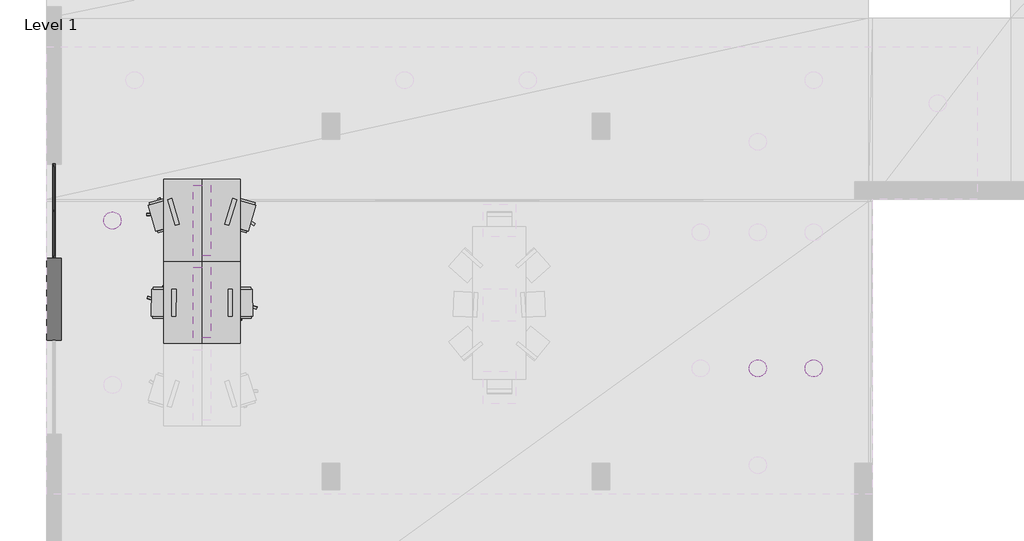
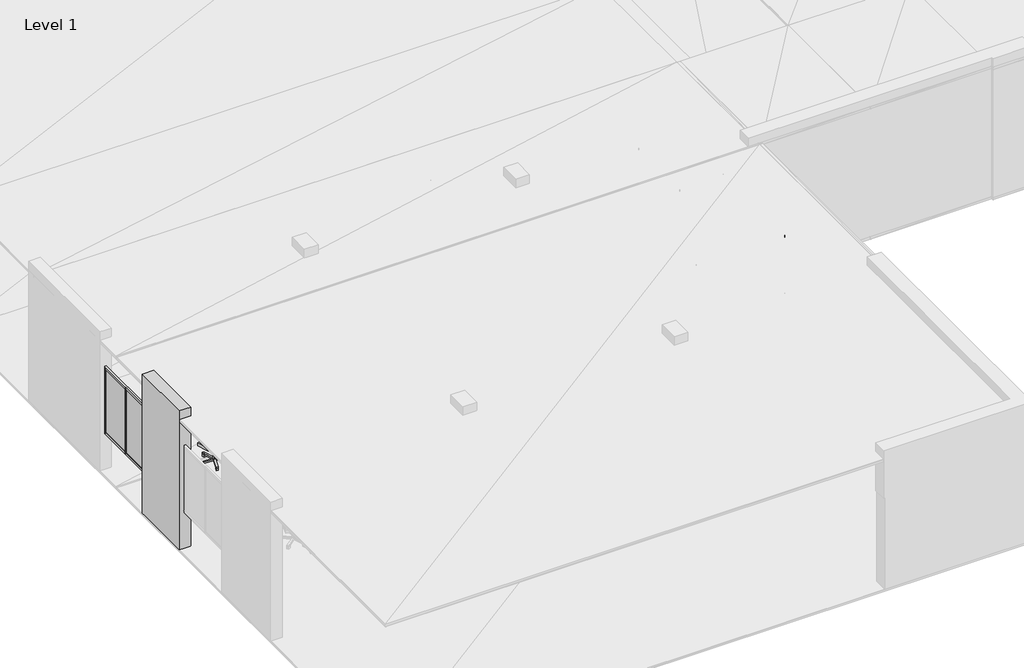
# One storey, part 5 of 14: 19 proxies.
"""IFC4 building model written with IfcOpenShell, lengths in millimetres."""

import ifcopenshell
import ifcopenshell.guid

model = None  # the IFC model being written
_history = None  # IfcOwnerHistory: only IFC2X3 demands one
_inside = {}  # id of a spatial element -> (the spatial element, [elements in it])
_under = {}  # id of a project, library or spatial element -> (it, [spatial elements below it])
_declared = {}  # id of a project -> (the project, [libraries it declares])
_typed = {}  # id of a type object -> (the type object, [elements of that type])
_made_of = {}  # id of a material, layer set ... -> (it, [elements and type objects made of it])


def new_model(schema):
    """Start an empty IFC model of exactly this schema.

    Asked for "IFC4X3", IfcOpenShell would pick the latest addendum, in which some entities
    have other attributes; the version numbers below select the first issue.
    IFC2X3 requires an IfcOwnerHistory on every rooted entity: one is made here for all.
    """
    global model, _history
    if schema == "IFC4X3":
        model = ifcopenshell.file(schema_version=(4, 3, 0, 0))
    else:
        model = ifcopenshell.file(schema=schema)
    _inside.clear()
    _under.clear()
    _declared.clear()
    _typed.clear()
    _made_of.clear()
    _history = None
    if model.schema == "IFC2X3":
        org = make("IfcOrganization", Name="unknown")
        user = make(
            "IfcPersonAndOrganization",
            ThePerson=make("IfcPerson", FamilyName="unknown"),
            TheOrganization=org,
        )
        app = make(
            "IfcApplication",
            ApplicationDeveloper=org,
            Version="unknown",
            ApplicationFullName="unknown",
            ApplicationIdentifier="unknown",
        )
        _history = make(
            "IfcOwnerHistory",
            OwningUser=user,
            OwningApplication=app,
            ChangeAction="ADDED",
            CreationDate=0,
        )
    return model


def make(cls, **values):
    """One entity of the class cls with the attributes given. An attribute that is None is left unset."""
    return model.create_entity(
        cls, **{name: value for name, value in values.items() if value is not None}
    )


def rooted(cls, **values):
    """An entity with a GlobalId (a new one), such as an element, a storey or a relation."""
    return make(cls, GlobalId=ifcopenshell.guid.new(), OwnerHistory=_history, **values)


def si_unit(unit_type, name, prefix=None):
    """IfcSIUnit, for example si_unit("LENGTHUNIT", "METRE", prefix="MILLI")."""
    return make("IfcSIUnit", UnitType=unit_type, Prefix=prefix, Name=name)


def assignment(units):
    """IfcUnitAssignment: the units of a project."""
    return None if units is None else make("IfcUnitAssignment", Units=units)


def point(xyz):
    """IfcCartesianPoint."""
    return None if xyz is None else make("IfcCartesianPoint", Coordinates=xyz)


def direction(xyz):
    """IfcDirection."""
    return None if xyz is None else make("IfcDirection", DirectionRatios=xyz)


def frame(location, z_axis=None, x_axis=None):
    """IfcAxis2Placement3D, a coordinate frame: its origin and axes. An axis left out is left unset."""
    return make(
        "IfcAxis2Placement3D",
        Location=point(location),
        Axis=direction(z_axis),
        RefDirection=direction(x_axis),
    )


def origin():
    """The frame at (0, 0, 0) with its axes left unset."""
    return frame((0.0, 0.0, 0.0))


def origin_with_axes():
    """The frame at (0, 0, 0) with the z axis (0, 0, 1) and the x axis (1, 0, 0) written out."""
    return frame((0.0, 0.0, 0.0), z_axis=(0.0, 0.0, 1.0), x_axis=(1.0, 0.0, 0.0))


def place(relative_to, where):
    """IfcLocalPlacement: puts the frame where relative to a parent placement (None: the world)."""
    return make(
        "IfcLocalPlacement", PlacementRelTo=relative_to, RelativePlacement=where
    )


def context(
    kind, dimensions, precision=None, world=None, true_north=None, identifier=None
):
    """IfcGeometricRepresentationContext, for example the 3D "Model" context."""
    return make(
        "IfcGeometricRepresentationContext",
        ContextIdentifier=identifier,
        ContextType=kind,
        CoordinateSpaceDimension=dimensions,
        Precision=precision,
        WorldCoordinateSystem=world,
        TrueNorth=true_north,
    )


def project(units=None, contexts=None):
    """IfcProject with its units and contexts."""
    return rooted(
        "IfcProject",
        Name="project",
        RepresentationContexts=contexts,
        UnitsInContext=assignment(units),
    )


def spatial(cls, under=None, at=None, **own):
    """A site, building, storey or space (cls), placed at a placement, below another one or the project."""
    s = rooted(cls, ObjectPlacement=at, **own)
    if under is not None:
        _under.setdefault(under.id(), (under, []))[1].append(s)
    return s


def polyline(points):
    """IfcPolyline through the points."""
    return make("IfcPolyline", Points=[point(p) for p in points])


def outline(outer, holes=None, kind="AREA"):
    """IfcArbitraryClosedProfileDef: a profile drawn as a closed curve; with holes, ...WithVoids."""
    if holes is None:
        return make("IfcArbitraryClosedProfileDef", ProfileType=kind, OuterCurve=outer)
    return make(
        "IfcArbitraryProfileDefWithVoids",
        ProfileType=kind,
        OuterCurve=outer,
        InnerCurves=holes,
    )


def extrude(swept, where, along, depth):
    """IfcExtrudedAreaSolid: the profile swept, set in the frame where, extruded along a direction by depth."""
    return make(
        "IfcExtrudedAreaSolid",
        SweptArea=swept,
        Position=where,
        ExtrudedDirection=direction(along),
        Depth=depth,
    )


def shape(context_of_items, identifier, shape_type, items):
    """IfcShapeRepresentation: the items that make up one representation, for example the "Body"."""
    return make(
        "IfcShapeRepresentation",
        ContextOfItems=context_of_items,
        RepresentationIdentifier=identifier,
        RepresentationType=shape_type,
        Items=items,
    )


def made_of(thing, what):
    """Note that an element or type object is made of a material, layer set ...; save() writes the relation."""
    if what is not None:
        _made_of.setdefault(what.id(), (what, []))[1].append(thing)
    return thing


def element(
    cls,
    number,
    at=None,
    inside=None,
    cuts=None,
    type_object=None,
    material=None,
    context=None,
    identifier="Body",
    shape_type=None,
    held_by="IfcProductDefinitionShape",
    body=None,
    shapes=None,
    **own,
):
    """One element of the class cls, such as IfcWall. Its Tag is "e" and its number.

    at: its placement. inside: the storey or other place that contains it. cuts: it is an
    opening in that element (IfcRelVoidsElement). A single representation is given by context,
    identifier, shape_type and body (its items); several are given by shapes. held_by: the class
    of the entity that holds the representations. save() writes the other relations.
    """
    e = rooted(cls, Tag="e%d" % number, ObjectPlacement=at, **own)
    if body is not None:
        shapes = [shape(context, identifier, shape_type, body)]
    if shapes is not None:
        e.Representation = make(held_by, Representations=shapes)
    if inside is not None:
        _inside.setdefault(inside.id(), (inside, []))[1].append(e)
    if cuts is not None:
        rooted(
            "IfcRelVoidsElement", RelatingBuildingElement=cuts, RelatedOpeningElement=e
        )
    if type_object is not None:
        _typed.setdefault(type_object.id(), (type_object, []))[1].append(e)
    return made_of(e, material)


def aggregate(whole, parts):
    """IfcRelAggregates: a whole, such as a stair, and the parts it consists of."""
    return rooted("IfcRelAggregates", RelatingObject=whole, RelatedObjects=parts)


def save(model, path):
    """Write the relations noted so far, then the file.

    IfcRelAggregates (storeys below a building ...), IfcRelContainedInSpatialStructure (elements
    in a storey), IfcRelDefinesByType, IfcRelAssociatesMaterial and IfcRelDeclares: one each for
    every whole, place, type object, material and project.
    """
    for whole, parts in _under.values():
        aggregate(whole, parts)
    for where, things in _inside.values():
        rooted(
            "IfcRelContainedInSpatialStructure",
            RelatedElements=things,
            RelatingStructure=where,
        )
    for kind, things in _typed.values():
        rooted("IfcRelDefinesByType", RelatedObjects=things, RelatingType=kind)
    for what, things in _made_of.values():
        rooted("IfcRelAssociatesMaterial", RelatedObjects=things, RelatingMaterial=what)
    for by, libraries in _declared.values():
        rooted("IfcRelDeclares", RelatingContext=by, RelatedDefinitions=libraries)
    model.write(path)


model = new_model("IFC4")

# Units and contexts
model_context = context("Model", 3, world=origin())
ifc_project = project(units=[si_unit("LENGTHUNIT", "METRE", prefix="MILLI")], contexts=[model_context])

# Site, building, storey
site = spatial("IfcSite", under=ifc_project)
building = spatial("IfcBuilding", under=site)
storey = spatial("IfcBuildingStorey", under=building, Name="Level 1", Elevation=0.0)

# Proxies
placement = place(None, origin())
element("IfcBuildingElementProxy", 1, Name="Generic Models", at=placement, inside=storey, context=model_context, shape_type="SweptSolid", body=[
    extrude(outline(polyline([(3306.826115, 7708.5495), (2656.826019, 7708.5495), (2656.826019, 9108.549118), (3306.826115, 9108.549118), (3306.826115, 7708.5495)])), frame((0.0, 0.0, 709.999979), z_axis=(0.0, 0.0, 1.0), x_axis=(1.0, 0.0, 0.0)), (0.0, 0.0, 1.0), 40.000021),
])
element("IfcBuildingElementProxy", 2, Name="Generic Models", at=placement, inside=storey, context=model_context, shape_type="SweptSolid", body=[
    extrude(outline(polyline([(2656.826019, 7708.5495), (2006.826162, 7708.5495), (2006.826162, 9108.549118), (2656.826019, 9108.549118), (2656.826019, 7708.5495)])), frame((0.0, 0.0, 709.999979), z_axis=(0.0, 0.0, 1.0), x_axis=(1.0, 0.0, 0.0)), (0.0, 0.0, 1.0), 40.000021),
])
element("IfcBuildingElementProxy", 3, Name="Generic Models", at=placement, inside=storey, context=model_context, shape_type="SweptSolid", body=[
    extrude(outline(polyline([(3306.826115, 9108.549118), (2656.826019, 9108.549118), (2656.826019, 10508.54969), (3306.826115, 10508.54969), (3306.826115, 9108.549118)])), frame((0.0, 0.0, 709.999979), z_axis=(0.0, 0.0, 1.0), x_axis=(1.0, 0.0, 0.0)), (0.0, 0.0, 1.0), 40.000021),
])
element("IfcBuildingElementProxy", 4, Name="Generic Models", at=placement, inside=storey, context=model_context, shape_type="SweptSolid", body=[
    extrude(outline(polyline([(2656.826019, 9108.549118), (2006.826162, 9108.549118), (2006.826162, 10508.54969), (2656.826019, 10508.54969), (2656.826019, 9108.549118)])), frame((0.0, 0.0, 709.999979), z_axis=(0.0, 0.0, 1.0), x_axis=(1.0, 0.0, 0.0)), (0.0, 0.0, 1.0), 40.000021),
])
element("IfcBuildingElementProxy", 5, Name="Generic Models", at=placement, inside=storey, context=model_context, shape_type="SweptSolid", body=[
    extrude(outline(polyline([(256.826103, 9170.000076), (256.826103, 7770.000458), (6.826094, 7770.000458), (6.826094, 9170.000076), (256.826103, 9170.000076)])), origin_with_axes(), (0.0, 0.0, 1.0), 3200.000048),
])
element("IfcBuildingElementProxy", 6, Name="Generic Models", at=placement, inside=storey, context=model_context, shape_type="SweptSolid", body=[
    extrude(outline(polyline([(153.899997, 9957.500458), (108.900003, 9957.500458), (108.900003, 9982.500076), (153.899997, 9982.500076), (153.899997, 9957.500458)])), frame((0.0, 0.0, 850.000024), z_axis=(0.0, 0.0, 1.0), x_axis=(1.0, 0.0, 0.0)), (0.0, 0.0, 1.0), 1499.999881),
    extrude(outline(polyline([(153.899997, 10727.499962), (108.900003, 10727.499962), (108.900003, 10772.500038), (153.899997, 10772.500038), (153.899997, 10727.499962)])), frame((0.0, 0.0, 850.000024), z_axis=(0.0, 0.0, 1.0), x_axis=(1.0, 0.0, 0.0)), (0.0, 0.0, 1.0), 1499.999881),
    extrude(outline(polyline([(153.899997, 9167.499542), (108.900003, 9167.499542), (108.900003, 9212.499619), (153.899997, 9212.499619), (153.899997, 9167.499542)])), frame((0.0, 0.0, 850.000024), z_axis=(0.0, 0.0, 1.0), x_axis=(1.0, 0.0, 0.0)), (0.0, 0.0, 1.0), 1499.999881),
    extrude(outline(polyline([(153.899997, 9170.000076), (108.900003, 9170.000076), (108.900003, 10770.000458), (153.899997, 10770.000458), (153.899997, 9170.000076)])), frame((0.0, 0.0, 2327.500105), z_axis=(0.0, 0.0, 1.0), x_axis=(1.0, 0.0, 0.0)), (0.0, 0.0, 1.0), 44.999838),
    extrude(outline(polyline([(153.899997, 9170.000076), (108.900003, 9170.000076), (108.900003, 10770.000458), (153.899997, 10770.000458), (153.899997, 9170.000076)])), frame((0.0, 0.0, 827.499986), z_axis=(0.0, 0.0, 1.0), x_axis=(1.0, 0.0, 0.0)), (0.0, 0.0, 1.0), 45.000016),
    extrude(outline(polyline([(140.400007, 9170.000076), (122.400001, 9170.000076), (122.400001, 10770.000458), (140.400007, 10770.000458), (140.400007, 9170.000076)])), frame((0.0, 0.0, 850.000024), z_axis=(0.0, 0.0, 1.0), x_axis=(1.0, 0.0, 0.0)), (0.0, 0.0, 1.0), 1499.999881),
])
element("IfcBuildingElementProxy", 7, Name="Generic Models", at=placement, inside=storey, context=model_context, shape_type="SweptSolid", body=[
    extrude(outline(polyline([(2806.826115, 7808.549404), (2506.825924, 7808.549404), (2506.825924, 9008.54969), (2806.826115, 9008.54969), (2806.826115, 7808.549404)])), frame((0.0, 0.0, 2910.000086), z_axis=(0.0, 0.0, 1.0), x_axis=(1.0, 0.0, 0.0)), (0.0, 0.0, 1.0), 39.999962),
])
element("IfcBuildingElementProxy", 8, Name="Generic Models", at=placement, inside=storey, context=model_context, shape_type="SweptSolid", body=[
    extrude(outline(polyline([(2806.826115, 9208.548546), (2506.825924, 9208.548546), (2506.825924, 10408.549309), (2806.826115, 10408.549309), (2806.826115, 9208.548546)])), frame((0.0, 0.0, 2910.000086), z_axis=(0.0, 0.0, 1.0), x_axis=(1.0, 0.0, 0.0)), (0.0, 0.0, 1.0), 39.999962),
])
element("IfcBuildingElementProxy", 9, Name="Generic Models", at=placement, inside=storey, context=model_context, shape_type="SweptSolid", body=[
    extrude(outline(polyline([(13212.161064, 7234.164715), (13198.543549, 7208.688259), (13180.217743, 7186.357498), (13157.887459, 7168.031693), (13132.411003, 7154.414177), (13104.766846, 7146.028519), (13076.018333, 7143.19706), (13047.269821, 7146.028519), (13019.625664, 7154.414177), (12994.149208, 7168.031693), (12971.818924, 7186.357498), (12953.493118, 7208.688259), (12939.875603, 7234.164715), (12931.489944, 7261.808395), (12928.658485, 7290.556908), (12931.489944, 7319.30542), (12939.875603, 7346.9491), (12953.493118, 7372.425556), (12971.818924, 7394.756317), (12994.149208, 7413.082123), (13019.625664, 7426.699638), (13047.269821, 7435.085297), (13076.018333, 7437.916756), (13104.766846, 7435.085297), (13132.411003, 7426.699638), (13157.887459, 7413.082123), (13180.217743, 7394.756317), (13198.543549, 7372.425556), (13212.161064, 7346.9491), (13220.546722, 7319.30542), (13223.378181, 7290.556908), (13220.546722, 7261.808395), (13212.161064, 7234.164715)])), frame((0.0, 0.0, 2910.000086), z_axis=(0.0, 0.0, 1.0), x_axis=(1.0, 0.0, 0.0)), (0.0, 0.0, 1.0), 39.999962),
])
element("IfcBuildingElementProxy", 10, Name="Generic Models", at=placement, inside=storey, context=model_context, shape_type="SweptSolid", body=[
    extrude(outline(polyline([(12262.160301, 7234.164715), (12248.542786, 7208.688259), (12230.21698, 7186.357498), (12207.886696, 7168.031693), (12182.41024, 7154.414177), (12154.766083, 7146.028519), (12126.01757, 7143.19706), (12097.269058, 7146.028519), (12069.624901, 7154.414177), (12044.148445, 7168.031693), (12021.818161, 7186.357498), (12003.492355, 7208.688259), (11989.87484, 7234.164715), (11981.489182, 7261.808395), (11978.657722, 7290.556908), (11981.489182, 7319.30542), (11989.87484, 7346.9491), (12003.492355, 7372.425556), (12021.818161, 7394.756317), (12044.148445, 7413.082123), (12069.624901, 7426.699638), (12097.269058, 7435.085297), (12126.01757, 7437.916756), (12154.766083, 7435.085297), (12182.41024, 7426.699638), (12207.886696, 7413.082123), (12230.21698, 7394.756317), (12248.542786, 7372.425556), (12262.160301, 7346.9491), (12270.545959, 7319.30542), (12273.377419, 7290.556908), (12270.545959, 7261.808395), (12262.160301, 7234.164715)])), frame((0.0, 0.0, 2910.000086), z_axis=(0.0, 0.0, 1.0), x_axis=(1.0, 0.0, 0.0)), (0.0, 0.0, 1.0), 39.999962),
])
element("IfcBuildingElementProxy", 11, Name="Generic Models", at=placement, inside=storey, context=model_context, shape_type="SweptSolid", body=[
    extrude(outline(polyline([(1265.280008, 9752.156258), (1251.662493, 9726.679802), (1233.336329, 9704.349518), (1211.005926, 9686.023712), (1185.529232, 9672.406197), (1157.885551, 9664.020538), (1129.137039, 9661.189079), (1100.388527, 9664.020538), (1072.744846, 9672.406197), (1047.268152, 9686.023712), (1024.937749, 9704.349518), (1006.611586, 9726.679802), (992.99407, 9752.156258), (984.608471, 9779.800415), (981.776953, 9808.548927), (984.608471, 9837.29744), (992.99407, 9864.941597), (1006.611586, 9890.418053), (1024.937749, 9912.748337), (1047.268152, 9931.074142), (1072.744846, 9944.691658), (1100.388527, 9953.077316), (1129.137039, 9955.908775), (1157.885551, 9953.077316), (1185.529232, 9944.691658), (1211.005926, 9931.074142), (1233.336329, 9912.748337), (1251.662493, 9890.418053), (1265.280008, 9864.941597), (1273.665667, 9837.29744), (1276.497126, 9808.548927), (1273.665667, 9779.800415), (1265.280008, 9752.156258)])), frame((0.0, 0.0, 2910.000086), z_axis=(0.0, 0.0, 1.0), x_axis=(1.0, 0.0, 0.0)), (0.0, 0.0, 1.0), 39.999962),
])
element("IfcBuildingElementProxy", 12, Name="Generic Models", at=placement, inside=storey, context=model_context, shape_type="SweptSolid", body=[
    extrude(outline(polyline([(3254.326105, 7783.549309), (3209.326029, 7783.549309), (3209.326029, 9033.549309), (3254.326105, 9033.549309), (3254.326105, 7783.549309)])), frame((0.0, 0.0, 639.999986), z_axis=(0.0, 0.0, 1.0), x_axis=(1.0, 0.0, 0.0)), (0.0, 0.0, 1.0), 69.999993),
    extrude(outline(polyline([(2754.326105, 7783.549309), (2709.326029, 7783.549309), (2709.326029, 9033.549309), (2754.326105, 9033.549309), (2754.326105, 7783.549309)])), frame((0.0, 0.0, 639.999986), z_axis=(0.0, 0.0, 1.0), x_axis=(1.0, 0.0, 0.0)), (0.0, 0.0, 1.0), 69.999993),
    extrude(outline(polyline([(2731.826067, 9011.049271), (2731.826067, 9056.049347), (3231.826067, 9056.049347), (3231.826067, 9011.049271), (2731.826067, 9011.049271)])), frame((0.0, 0.0, 639.999986), z_axis=(0.0, 0.0, 1.0), x_axis=(1.0, 0.0, 0.0)), (0.0, 0.0, 1.0), 69.999993),
    extrude(outline(polyline([(2731.826067, 7761.049271), (2731.826067, 7806.049347), (3231.826067, 7806.049347), (3231.826067, 7761.049271), (2731.826067, 7761.049271)])), frame((0.0, 0.0, 639.999986), z_axis=(0.0, 0.0, 1.0), x_axis=(1.0, 0.0, 0.0)), (0.0, 0.0, 1.0), 69.999993),
    extrude(outline(polyline([(3207.451105, 9009.174347), (3207.451105, 9057.924271), (3256.201029, 9057.924271), (3256.201029, 9009.174347), (3207.451105, 9009.174347)])), frame((0.0, 0.0, 50.000001), z_axis=(0.0, 0.0, 1.0), x_axis=(1.0, 0.0, 0.0)), (0.0, 0.0, 1.0), 659.999978),
    extrude(outline(polyline([(3207.451105, 7759.174347), (3207.451105, 7807.924271), (3256.201029, 7807.924271), (3256.201029, 7759.174347), (3207.451105, 7759.174347)])), frame((0.0, 0.0, 50.000001), z_axis=(0.0, 0.0, 1.0), x_axis=(1.0, 0.0, 0.0)), (0.0, 0.0, 1.0), 659.999978),
    extrude(outline(polyline([(2707.451105, 9009.174347), (2707.451105, 9057.924271), (2756.201029, 9057.924271), (2756.201029, 9009.174347), (2707.451105, 9009.174347)])), frame((0.0, 0.0, 50.000001), z_axis=(0.0, 0.0, 1.0), x_axis=(1.0, 0.0, 0.0)), (0.0, 0.0, 1.0), 659.999978),
    extrude(outline(polyline([(2707.451105, 7759.174347), (2707.451105, 7807.924271), (2756.201029, 7807.924271), (2756.201029, 7759.174347), (2707.451105, 7759.174347)])), frame((0.0, 0.0, 50.000001), z_axis=(0.0, 0.0, 1.0), x_axis=(1.0, 0.0, 0.0)), (0.0, 0.0, 1.0), 659.999978),
])
element("IfcBuildingElementProxy", 13, Name="Generic Models", at=placement, inside=storey, context=model_context, shape_type="SweptSolid", body=[
    extrude(outline(polyline([(2604.32601, 7783.549309), (2559.325933, 7783.549309), (2559.325933, 9033.549309), (2604.32601, 9033.549309), (2604.32601, 7783.549309)])), frame((0.0, 0.0, 639.999986), z_axis=(0.0, 0.0, 1.0), x_axis=(1.0, 0.0, 0.0)), (0.0, 0.0, 1.0), 69.999993),
    extrude(outline(polyline([(2104.326248, 7783.549309), (2059.326172, 7783.549309), (2059.326172, 9033.549309), (2104.326248, 9033.549309), (2104.326248, 7783.549309)])), frame((0.0, 0.0, 639.999986), z_axis=(0.0, 0.0, 1.0), x_axis=(1.0, 0.0, 0.0)), (0.0, 0.0, 1.0), 69.999993),
    extrude(outline(polyline([(2081.82621, 9011.049271), (2081.82621, 9056.049347), (2581.825972, 9056.049347), (2581.825972, 9011.049271), (2081.82621, 9011.049271)])), frame((0.0, 0.0, 639.999986), z_axis=(0.0, 0.0, 1.0), x_axis=(1.0, 0.0, 0.0)), (0.0, 0.0, 1.0), 69.999993),
    extrude(outline(polyline([(2081.82621, 7761.049271), (2081.82621, 7806.049347), (2581.825972, 7806.049347), (2581.825972, 7761.049271), (2081.82621, 7761.049271)])), frame((0.0, 0.0, 639.999986), z_axis=(0.0, 0.0, 1.0), x_axis=(1.0, 0.0, 0.0)), (0.0, 0.0, 1.0), 69.999993),
    extrude(outline(polyline([(2557.45101, 9009.174347), (2557.45101, 9057.924271), (2606.200933, 9057.924271), (2606.200933, 9009.174347), (2557.45101, 9009.174347)])), frame((0.0, 0.0, 50.000001), z_axis=(0.0, 0.0, 1.0), x_axis=(1.0, 0.0, 0.0)), (0.0, 0.0, 1.0), 659.999978),
    extrude(outline(polyline([(2557.45101, 7759.174347), (2557.45101, 7807.924271), (2606.200933, 7807.924271), (2606.200933, 7759.174347), (2557.45101, 7759.174347)])), frame((0.0, 0.0, 50.000001), z_axis=(0.0, 0.0, 1.0), x_axis=(1.0, 0.0, 0.0)), (0.0, 0.0, 1.0), 659.999978),
    extrude(outline(polyline([(2057.451248, 9009.174347), (2057.451248, 9057.924271), (2106.201172, 9057.924271), (2106.201172, 9009.174347), (2057.451248, 9009.174347)])), frame((0.0, 0.0, 50.000001), z_axis=(0.0, 0.0, 1.0), x_axis=(1.0, 0.0, 0.0)), (0.0, 0.0, 1.0), 659.999978),
    extrude(outline(polyline([(2057.451248, 7759.174347), (2057.451248, 7807.924271), (2106.201172, 7807.924271), (2106.201172, 7759.174347), (2057.451248, 7759.174347)])), frame((0.0, 0.0, 50.000001), z_axis=(0.0, 0.0, 1.0), x_axis=(1.0, 0.0, 0.0)), (0.0, 0.0, 1.0), 659.999978),
])
element("IfcBuildingElementProxy", 14, Name="Generic Models", at=placement, inside=storey, context=model_context, shape_type="SweptSolid", body=[
    extrude(outline(polyline([(3254.326105, 9183.548927), (3209.326029, 9183.548927), (3209.326029, 10433.549881), (3254.326105, 10433.549881), (3254.326105, 9183.548927)])), frame((0.0, 0.0, 639.999986), z_axis=(0.0, 0.0, 1.0), x_axis=(1.0, 0.0, 0.0)), (0.0, 0.0, 1.0), 69.999993),
    extrude(outline(polyline([(2754.326105, 9183.548927), (2709.326029, 9183.548927), (2709.326029, 10433.549881), (2754.326105, 10433.549881), (2754.326105, 9183.548927)])), frame((0.0, 0.0, 639.999986), z_axis=(0.0, 0.0, 1.0), x_axis=(1.0, 0.0, 0.0)), (0.0, 0.0, 1.0), 69.999993),
    extrude(outline(polyline([(2731.826067, 10411.049843), (2731.826067, 10456.049919), (3231.826067, 10456.049919), (3231.826067, 10411.049843), (2731.826067, 10411.049843)])), frame((0.0, 0.0, 639.999986), z_axis=(0.0, 0.0, 1.0), x_axis=(1.0, 0.0, 0.0)), (0.0, 0.0, 1.0), 69.999993),
    extrude(outline(polyline([(2731.826067, 9161.048889), (2731.826067, 9206.048965), (3231.826067, 9206.048965), (3231.826067, 9161.048889), (2731.826067, 9161.048889)])), frame((0.0, 0.0, 639.999986), z_axis=(0.0, 0.0, 1.0), x_axis=(1.0, 0.0, 0.0)), (0.0, 0.0, 1.0), 69.999993),
    extrude(outline(polyline([(3207.451105, 10409.174919), (3207.451105, 10457.924843), (3256.201029, 10457.924843), (3256.201029, 10409.174919), (3207.451105, 10409.174919)])), frame((0.0, 0.0, 50.000001), z_axis=(0.0, 0.0, 1.0), x_axis=(1.0, 0.0, 0.0)), (0.0, 0.0, 1.0), 659.999978),
    extrude(outline(polyline([(3207.451105, 9159.173965), (3207.451105, 9207.923889), (3256.201029, 9207.923889), (3256.201029, 9159.173965), (3207.451105, 9159.173965)])), frame((0.0, 0.0, 50.000001), z_axis=(0.0, 0.0, 1.0), x_axis=(1.0, 0.0, 0.0)), (0.0, 0.0, 1.0), 659.999978),
    extrude(outline(polyline([(2707.451105, 10409.174919), (2707.451105, 10457.924843), (2756.201029, 10457.924843), (2756.201029, 10409.174919), (2707.451105, 10409.174919)])), frame((0.0, 0.0, 50.000001), z_axis=(0.0, 0.0, 1.0), x_axis=(1.0, 0.0, 0.0)), (0.0, 0.0, 1.0), 659.999978),
    extrude(outline(polyline([(2707.451105, 9159.173965), (2707.451105, 9207.923889), (2756.201029, 9207.923889), (2756.201029, 9159.173965), (2707.451105, 9159.173965)])), frame((0.0, 0.0, 50.000001), z_axis=(0.0, 0.0, 1.0), x_axis=(1.0, 0.0, 0.0)), (0.0, 0.0, 1.0), 659.999978),
])
element("IfcBuildingElementProxy", 15, Name="Generic Models", at=placement, inside=storey, context=model_context, shape_type="SweptSolid", body=[
    extrude(outline(polyline([(2604.32601, 9183.548927), (2559.325933, 9183.548927), (2559.325933, 10433.549881), (2604.32601, 10433.549881), (2604.32601, 9183.548927)])), frame((0.0, 0.0, 639.999986), z_axis=(0.0, 0.0, 1.0), x_axis=(1.0, 0.0, 0.0)), (0.0, 0.0, 1.0), 69.999993),
    extrude(outline(polyline([(2104.326248, 9183.548927), (2059.326172, 9183.548927), (2059.326172, 10433.549881), (2104.326248, 10433.549881), (2104.326248, 9183.548927)])), frame((0.0, 0.0, 639.999986), z_axis=(0.0, 0.0, 1.0), x_axis=(1.0, 0.0, 0.0)), (0.0, 0.0, 1.0), 69.999993),
    extrude(outline(polyline([(2081.82621, 10411.049843), (2081.82621, 10456.049919), (2581.825972, 10456.049919), (2581.825972, 10411.049843), (2081.82621, 10411.049843)])), frame((0.0, 0.0, 639.999986), z_axis=(0.0, 0.0, 1.0), x_axis=(1.0, 0.0, 0.0)), (0.0, 0.0, 1.0), 69.999993),
    extrude(outline(polyline([(2081.82621, 9161.048889), (2081.82621, 9206.048965), (2581.825972, 9206.048965), (2581.825972, 9161.048889), (2081.82621, 9161.048889)])), frame((0.0, 0.0, 639.999986), z_axis=(0.0, 0.0, 1.0), x_axis=(1.0, 0.0, 0.0)), (0.0, 0.0, 1.0), 69.999993),
    extrude(outline(polyline([(2557.45101, 10409.174919), (2557.45101, 10457.924843), (2606.200933, 10457.924843), (2606.200933, 10409.174919), (2557.45101, 10409.174919)])), frame((0.0, 0.0, 50.000001), z_axis=(0.0, 0.0, 1.0), x_axis=(1.0, 0.0, 0.0)), (0.0, 0.0, 1.0), 659.999978),
    extrude(outline(polyline([(2557.45101, 9159.173965), (2557.45101, 9207.923889), (2606.200933, 9207.923889), (2606.200933, 9159.173965), (2557.45101, 9159.173965)])), frame((0.0, 0.0, 50.000001), z_axis=(0.0, 0.0, 1.0), x_axis=(1.0, 0.0, 0.0)), (0.0, 0.0, 1.0), 659.999978),
    extrude(outline(polyline([(2057.451248, 10409.174919), (2057.451248, 10457.924843), (2106.201172, 10457.924843), (2106.201172, 10409.174919), (2057.451248, 10409.174919)])), frame((0.0, 0.0, 50.000001), z_axis=(0.0, 0.0, 1.0), x_axis=(1.0, 0.0, 0.0)), (0.0, 0.0, 1.0), 659.999978),
    extrude(outline(polyline([(2057.451248, 9159.173965), (2057.451248, 9207.923889), (2106.201172, 9207.923889), (2106.201172, 9159.173965), (2057.451248, 9159.173965)])), frame((0.0, 0.0, 50.000001), z_axis=(0.0, 0.0, 1.0), x_axis=(1.0, 0.0, 0.0)), (0.0, 0.0, 1.0), 659.999978),
])
element("IfcBuildingElementProxy", 16, Name="Generic Models", at=placement, inside=storey, context=model_context, shape_type="SweptSolid", body=[
    extrude(outline(polyline([(3239.531994, 9680.942535), (3268.268347, 9672.327042), (3259.653091, 9643.590927), (3230.916739, 9652.206421), (3239.531994, 9680.942535)])), frame((0.0, 0.0, 439.999998), z_axis=(0.0, 0.0, 1.0), x_axis=(1.0, 0.0, 0.0)), (0.0, 0.0, 1.0), 199.999988),
    extrude(outline(polyline([(3091.778994, 9727.84996), (3417.457342, 9630.209923), (3407.406092, 9596.684456), (3081.727743, 9694.324493), (3091.778994, 9727.84996)])), frame((0.0, 0.0, 612.500012), z_axis=(0.0, 0.0, 1.0), x_axis=(1.0, 0.0, 0.0)), (0.0, 0.0, 1.0), 34.999967),
    extrude(outline(polyline([(3093.682528, 9795.137405), (3117.629528, 9787.958145), (3110.450029, 9764.011383), (3086.503267, 9771.190643), (3093.682528, 9795.137405)])), frame((0.0, 0.0, 460.000008), z_axis=(0.0, 0.0, 1.0), x_axis=(1.0, 0.0, 0.0)), (0.0, 0.0, 1.0), 400.000006),
    extrude(outline(polyline([(3383.120537, 10159.881592), (3411.85689, 10151.266098), (3403.241634, 10122.529984), (3374.505281, 10131.145477), (3383.120537, 10159.881592)])), frame((0.0, 0.0, 439.999998), z_axis=(0.0, 0.0, 1.0), x_axis=(1.0, 0.0, 0.0)), (0.0, 0.0, 1.0), 199.999988),
    extrude(outline(polyline([(3235.367537, 10206.789017), (3561.045885, 10109.148026), (3550.994635, 10075.622559), (3225.316286, 10173.262596), (3235.367537, 10206.789017)])), frame((0.0, 0.0, 612.500012), z_axis=(0.0, 0.0, 1.0), x_axis=(1.0, 0.0, 0.0)), (0.0, 0.0, 1.0), 34.999967),
    extrude(outline(polyline([(3197.066307, 10139.97364), (3221.013308, 10132.79438), (3213.833809, 10108.846664), (3189.887047, 10116.026878), (3197.066307, 10139.97364)])), frame((0.0, 0.0, 460.000008), z_axis=(0.0, 0.0, 1.0), x_axis=(1.0, 0.0, 0.0)), (0.0, 0.0, 1.0), 400.000006),
    extrude(outline(polyline([(3176.704407, 10185.227394), (3243.755817, 10165.124893), (3111.65452, 9724.500656), (3044.603109, 9744.603157), (3176.704407, 10185.227394)])), frame((0.0, 0.0, 460.000008), z_axis=(0.0, 0.0, 1.0), x_axis=(1.0, 0.0, 0.0)), (0.0, 0.0, 1.0), 479.99999),
    extrude(outline(polyline([(3171.915054, 10186.662674), (3574.223757, 10066.048622), (3442.122221, 9625.425339), (3039.813519, 9746.039391), (3171.915054, 10186.662674)])), frame((0.0, 0.0, 400.000006), z_axis=(0.0, 0.0, 1.0), x_axis=(1.0, 0.0, 0.0)), (0.0, 0.0, 1.0), 69.999993),
    extrude(outline(polyline([(3324.518681, 9875.733376), (3307.018757, 9871.044159), (3289.518595, 9875.733376), (3276.707649, 9888.544083), (3272.018671, 9906.044006), (3276.707649, 9923.54393), (3289.518595, 9936.354637), (3307.018757, 9941.043854), (3324.518681, 9936.354637), (3337.329626, 9923.54393), (3342.018604, 9906.044006), (3337.329626, 9888.544083), (3324.518681, 9875.733376)])), frame((0.0, 0.0, 115.000002), z_axis=(0.0, 0.0, 1.0), x_axis=(1.0, 0.0, 0.0)), (0.0, 0.0, 1.0), 280.000009),
    extrude(outline(polyline([(3069.066048, 9923.104286), (3070.095539, 9878.116608), (3015.110016, 9876.857758), (3014.080524, 9921.84639), (3069.066048, 9923.104286)])), frame((0.0, 0.0, 35.0), z_axis=(0.0, 0.0, 1.0), x_axis=(1.0, 0.0, 0.0)), (0.0, 0.0, 1.0), 59.999999),
    extrude(outline(polyline([(3311.616898, 9923.653603), (3312.417746, 9888.663292), (3012.496233, 9881.799698), (3011.695385, 9916.790009), (3311.616898, 9923.653603)])), frame((0.0, 0.0, 82.500003), z_axis=(0.0, 0.0, 1.0), x_axis=(1.0, 0.0, 0.0)), (0.0, 0.0, 1.0), 34.999997),
    extrude(outline(polyline([(3249.712706, 10137.62188), (3207.244396, 10122.740746), (3189.056158, 10174.646378), (3231.524467, 10189.527512), (3249.712706, 10137.62188)])), frame((0.0, 0.0, 35.0), z_axis=(0.0, 0.0, 1.0), x_axis=(1.0, 0.0, 0.0)), (0.0, 0.0, 1.0), 59.999999),
    extrude(outline(polyline([(3325.187445, 9907.112122), (3292.156696, 9895.53833), (3192.948103, 10178.659439), (3225.97909, 10190.234184), (3325.187445, 9907.112122)])), frame((0.0, 0.0, 82.500003), z_axis=(0.0, 0.0, 1.0), x_axis=(1.0, 0.0, 0.0)), (0.0, 0.0, 1.0), 34.999997),
    extrude(outline(polyline([(3509.554148, 10032.1064), (3482.27787, 10067.897797), (3526.022434, 10101.23539), (3553.29895, 10065.444946), (3509.554148, 10032.1064)])), frame((0.0, 0.0, 35.0), z_axis=(0.0, 0.0, 1.0), x_axis=(1.0, 0.0, 0.0)), (0.0, 0.0, 1.0), 59.999999),
    extrude(outline(polyline([(3313.649416, 9889.094353), (3292.434454, 9916.932106), (3531.041622, 10098.773956), (3552.256584, 10070.937157), (3313.649416, 9889.094353)])), frame((0.0, 0.0, 82.500003), z_axis=(0.0, 0.0, 1.0), x_axis=(1.0, 0.0, 0.0)), (0.0, 0.0, 1.0), 34.999997),
    extrude(outline(polyline([(3489.498377, 9752.376556), (3515.109062, 9789.378166), (3560.332775, 9758.076668), (3534.722328, 9721.075058), (3489.498377, 9752.376556)])), frame((0.0, 0.0, 35.0), z_axis=(0.0, 0.0, 1.0), x_axis=(1.0, 0.0, 0.0)), (0.0, 0.0, 1.0), 59.999999),
    extrude(outline(polyline([(3292.947769, 9894.499779), (3312.866926, 9923.278809), (3559.542894, 9752.542496), (3539.623737, 9723.763466), (3292.947769, 9894.499779)])), frame((0.0, 0.0, 82.500003), z_axis=(0.0, 0.0, 1.0), x_axis=(1.0, 0.0, 0.0)), (0.0, 0.0, 1.0), 34.999997),
    extrude(outline(polyline([(3217.261791, 9685.009956), (3260.366201, 9672.086716), (3244.571447, 9619.402885), (3201.467037, 9632.326126), (3217.261791, 9685.009956)])), frame((0.0, 0.0, 35.0), z_axis=(0.0, 0.0, 1.0), x_axis=(1.0, 0.0, 0.0)), (0.0, 0.0, 1.0), 59.999999),
    extrude(outline(polyline([(3291.69178, 9915.859222), (3325.217485, 9905.807495), (3239.064217, 9618.444443), (3205.538511, 9628.49617), (3291.69178, 9915.859222)])), frame((0.0, 0.0, 82.500003), z_axis=(0.0, 0.0, 1.0), x_axis=(1.0, 0.0, 0.0)), (0.0, 0.0, 1.0), 34.999997),
])
element("IfcBuildingElementProxy", 17, Name="Generic Models", at=placement, inside=storey, context=model_context, shape_type="SweptSolid", body=[
    extrude(outline(polyline([(1939.146996, 10131.145477), (1910.410643, 10122.529984), (1901.795387, 10151.266098), (1930.531621, 10159.881592), (1939.146996, 10131.145477)])), frame((0.0, 0.0, 439.999998), z_axis=(0.0, 0.0, 1.0), x_axis=(1.0, 0.0, 0.0)), (0.0, 0.0, 1.0), 199.999988),
    extrude(outline(polyline([(2088.335991, 10173.262596), (1762.657642, 10075.622559), (1752.606392, 10109.148026), (2078.28474, 10206.789017), (2088.335991, 10173.262596)])), frame((0.0, 0.0, 612.500012), z_axis=(0.0, 0.0, 1.0), x_axis=(1.0, 0.0, 0.0)), (0.0, 0.0, 1.0), 34.999967),
    extrude(outline(polyline([(2123.76523, 10116.026878), (2099.818468, 10108.846664), (2092.638969, 10132.79438), (2116.58597, 10139.97364), (2123.76523, 10116.026878)])), frame((0.0, 0.0, 460.000008), z_axis=(0.0, 0.0, 1.0), x_axis=(1.0, 0.0, 0.0)), (0.0, 0.0, 1.0), 400.000006),
    extrude(outline(polyline([(2082.735538, 9652.206421), (2053.999186, 9643.590927), (2045.38393, 9672.327042), (2074.120283, 9680.942535), (2082.735538, 9652.206421)])), frame((0.0, 0.0, 439.999998), z_axis=(0.0, 0.0, 1.0), x_axis=(1.0, 0.0, 0.0)), (0.0, 0.0, 1.0), 199.999988),
    extrude(outline(polyline([(2231.924534, 9694.324493), (1906.246185, 9596.684456), (1896.195054, 9630.209923), (2221.873283, 9727.84996), (2231.924534, 9694.324493)])), frame((0.0, 0.0, 612.500012), z_axis=(0.0, 0.0, 1.0), x_axis=(1.0, 0.0, 0.0)), (0.0, 0.0, 1.0), 34.999967),
    extrude(outline(polyline([(2227.14901, 9771.190643), (2203.202248, 9764.011383), (2196.022749, 9787.958145), (2219.969749, 9795.137405), (2227.14901, 9771.190643)])), frame((0.0, 0.0, 460.000008), z_axis=(0.0, 0.0, 1.0), x_axis=(1.0, 0.0, 0.0)), (0.0, 0.0, 1.0), 400.000006),
    extrude(outline(polyline([(2269.049406, 9744.603157), (2201.997757, 9724.500656), (2069.896221, 10165.124893), (2136.947632, 10185.227394), (2269.049406, 9744.603157)])), frame((0.0, 0.0, 460.000008), z_axis=(0.0, 0.0, 1.0), x_axis=(1.0, 0.0, 0.0)), (0.0, 0.0, 1.0), 479.99999),
    extrude(outline(polyline([(2273.838758, 9746.039391), (1871.530175, 9625.425339), (1739.428639, 10066.048622), (2141.737223, 10186.662674), (2273.838758, 9746.039391)])), frame((0.0, 0.0, 400.000006), z_axis=(0.0, 0.0, 1.0), x_axis=(1.0, 0.0, 0.0)), (0.0, 0.0, 1.0), 69.999993),
    extrude(outline(polyline([(2024.133682, 9875.733376), (2006.633759, 9871.044159), (1989.133596, 9875.733376), (1976.32277, 9888.544083), (1971.633673, 9906.044006), (1976.32277, 9923.54393), (1989.133596, 9936.354637), (2006.633759, 9941.043854), (2024.133682, 9936.354637), (2036.944628, 9923.54393), (2041.633606, 9906.044006), (2036.944628, 9888.544083), (2024.133682, 9875.733376)])), frame((0.0, 0.0, 115.000002), z_axis=(0.0, 0.0, 1.0), x_axis=(1.0, 0.0, 0.0)), (0.0, 0.0, 1.0), 280.000009),
    extrude(outline(polyline([(2214.724064, 10022.709846), (2189.113379, 10059.711456), (2234.33733, 10091.012955), (2259.947777, 10054.011345), (2214.724064, 10022.709846)])), frame((0.0, 0.0, 35.0), z_axis=(0.0, 0.0, 1.0), x_axis=(1.0, 0.0, 0.0)), (0.0, 0.0, 1.0), 59.999999),
    extrude(outline(polyline([(2012.481928, 9888.809204), (1992.562771, 9917.588234), (2239.238501, 10088.324547), (2259.157896, 10059.545517), (2012.481928, 9888.809204)])), frame((0.0, 0.0, 82.500003), z_axis=(0.0, 0.0, 1.0), x_axis=(1.0, 0.0, 0.0)), (0.0, 0.0, 1.0), 34.999997),
    extrude(outline(polyline([(2181.892872, 9744.190216), (2209.169149, 9779.981613), (2252.913952, 9746.643066), (2225.637436, 9710.852623), (2181.892872, 9744.190216)])), frame((0.0, 0.0, 35.0), z_axis=(0.0, 0.0, 1.0), x_axis=(1.0, 0.0, 0.0)), (0.0, 0.0, 1.0), 59.999999),
    extrude(outline(polyline([(1992.049336, 9895.155907), (2013.264418, 9922.99366), (2251.871586, 9741.150856), (2230.656624, 9713.314056), (1992.049336, 9895.155907)])), frame((0.0, 0.0, 82.500003), z_axis=(0.0, 0.0, 1.0), x_axis=(1.0, 0.0, 0.0)), (0.0, 0.0, 1.0), 34.999997),
    extrude(outline(polyline([(1906.859517, 9689.347267), (1949.327707, 9674.466133), (1931.139469, 9622.560501), (1888.671279, 9637.441635), (1906.859517, 9689.347267)])), frame((0.0, 0.0, 35.0), z_axis=(0.0, 0.0, 1.0), x_axis=(1.0, 0.0, 0.0)), (0.0, 0.0, 1.0), 59.999999),
    extrude(outline(polyline([(1991.771698, 9916.549683), (2024.802446, 9904.975891), (1925.594091, 9621.853828), (1892.563224, 9633.428574), (1991.771698, 9916.549683)])), frame((0.0, 0.0, 82.500003), z_axis=(0.0, 0.0, 1.0), x_axis=(1.0, 0.0, 0.0)), (0.0, 0.0, 1.0), 34.999997),
    extrude(outline(polyline([(1769.710541, 9933.971405), (1768.681049, 9888.983727), (1713.695407, 9890.241623), (1714.725018, 9935.230255), (1769.710541, 9933.971405)])), frame((0.0, 0.0, 35.0), z_axis=(0.0, 0.0, 1.0), x_axis=(1.0, 0.0, 0.0)), (0.0, 0.0, 1.0), 59.999999),
    extrude(outline(polyline([(2012.032747, 9923.424721), (2011.231899, 9888.43441), (1711.310506, 9895.298004), (1712.111235, 9930.288315), (2012.032747, 9923.424721)])), frame((0.0, 0.0, 82.500003), z_axis=(0.0, 0.0, 1.0), x_axis=(1.0, 0.0, 0.0)), (0.0, 0.0, 1.0), 34.999997),
    extrude(outline(polyline([(1959.981322, 10140.001297), (1916.876793, 10127.078056), (1901.082039, 10179.761887), (1944.186568, 10192.684174), (1959.981322, 10140.001297)])), frame((0.0, 0.0, 35.0), z_axis=(0.0, 0.0, 1.0), x_axis=(1.0, 0.0, 0.0)), (0.0, 0.0, 1.0), 59.999999),
    extrude(outline(polyline([(2024.832487, 9906.280518), (1991.306663, 9896.22879), (1905.153513, 10183.591843), (1938.679218, 10193.64357), (2024.832487, 9906.280518)])), frame((0.0, 0.0, 82.500003), z_axis=(0.0, 0.0, 1.0), x_axis=(1.0, 0.0, 0.0)), (0.0, 0.0, 1.0), 34.999997),
])
element("IfcBuildingElementProxy", 18, Name="Generic Models", at=placement, inside=storey, context=model_context, shape_type="SweptSolid", body=[
    extrude(outline(polyline([(3308.829069, 8171.051025), (3338.828087, 8171.281815), (3339.059353, 8141.283035), (3309.060097, 8141.052246), (3308.829069, 8171.051025)])), frame((0.0, 0.0, 439.999998), z_axis=(0.0, 0.0, 1.0), x_axis=(1.0, 0.0, 0.0)), (0.0, 0.0, 1.0), 199.999988),
    extrude(outline(polyline([(3153.814316, 8172.356606), (3493.804216, 8174.976349), (3494.073868, 8139.977455), (3154.083967, 8137.357712), (3153.814316, 8172.356606)])), frame((0.0, 0.0, 612.500012), z_axis=(0.0, 0.0, 1.0), x_axis=(1.0, 0.0, 0.0)), (0.0, 0.0, 1.0), 34.999967),
    extrude(outline(polyline([(3135.81419, 8237.21981), (3160.813332, 8237.412453), (3161.005974, 8212.413788), (3136.006832, 8212.221146), (3135.81419, 8237.21981)])), frame((0.0, 0.0, 460.000008), z_axis=(0.0, 0.0, 1.0), x_axis=(1.0, 0.0, 0.0)), (0.0, 0.0, 1.0), 400.000006),
    extrude(outline(polyline([(3304.977179, 8671.035767), (3334.976196, 8671.267509), (3335.207462, 8641.267776), (3305.208206, 8641.036987), (3304.977179, 8671.035767)])), frame((0.0, 0.0, 439.999998), z_axis=(0.0, 0.0, 1.0), x_axis=(1.0, 0.0, 0.0)), (0.0, 0.0, 1.0), 199.999988),
    extrude(outline(polyline([(3149.962425, 8672.3423), (3489.952326, 8674.96109), (3490.221977, 8639.962196), (3150.232077, 8637.343407), (3149.962425, 8672.3423)])), frame((0.0, 0.0, 612.500012), z_axis=(0.0, 0.0, 1.0), x_axis=(1.0, 0.0, 0.0)), (0.0, 0.0, 1.0), 34.999967),
    extrude(outline(polyline([(3133.040667, 8597.208977), (3158.040047, 8597.401619), (3158.232689, 8572.402954), (3133.233309, 8572.210312), (3133.040667, 8597.208977)])), frame((0.0, 0.0, 460.000008), z_axis=(0.0, 0.0, 1.0), x_axis=(1.0, 0.0, 0.0)), (0.0, 0.0, 1.0), 400.000006),
    extrude(outline(polyline([(3100.252867, 8634.457588), (3170.250654, 8634.997368), (3173.794508, 8175.010681), (3103.796721, 8174.471855), (3100.252867, 8634.457588)])), frame((0.0, 0.0, 460.000008), z_axis=(0.0, 0.0, 1.0), x_axis=(1.0, 0.0, 0.0)), (0.0, 0.0, 1.0), 479.99999),
    extrude(outline(polyline([(3095.252991, 8634.419441), (3515.240431, 8637.655258), (3518.784285, 8177.668571), (3098.796844, 8174.432755), (3095.252991, 8634.419441)])), frame((0.0, 0.0, 400.000006), z_axis=(0.0, 0.0, 1.0), x_axis=(1.0, 0.0, 0.0)), (0.0, 0.0, 1.0), 69.999993),
    extrude(outline(polyline([(3324.518681, 8375.733376), (3307.018757, 8371.044159), (3289.518595, 8375.733376), (3276.707649, 8388.544083), (3272.018671, 8406.044006), (3276.707649, 8423.54393), (3289.518595, 8436.354637), (3307.018757, 8441.043854), (3324.518681, 8436.354637), (3337.329626, 8423.54393), (3342.018604, 8406.044006), (3337.329626, 8388.544083), (3324.518681, 8375.733376)])), frame((0.0, 0.0, 115.000002), z_axis=(0.0, 0.0, 1.0), x_axis=(1.0, 0.0, 0.0)), (0.0, 0.0, 1.0), 280.000009),
    extrude(outline(polyline([(3074.597359, 8352.258682), (3088.832378, 8309.570312), (3036.656618, 8292.171478), (3022.421598, 8334.860802), (3074.597359, 8352.258682)])), frame((0.0, 0.0, 35.0), z_axis=(0.0, 0.0, 1.0), x_axis=(1.0, 0.0, 0.0)), (0.0, 0.0, 1.0), 59.999999),
    extrude(outline(polyline([(3306.226015, 8424.226761), (3317.297697, 8391.02459), (3032.7034, 8296.123505), (3021.631718, 8329.32663), (3306.226015, 8424.226761)])), frame((0.0, 0.0, 82.500003), z_axis=(0.0, 0.0, 1.0), x_axis=(1.0, 0.0, 0.0)), (0.0, 0.0, 1.0), 34.999997),
    extrude(outline(polyline([(3184.044123, 8610.469818), (3147.843122, 8583.739281), (3115.173101, 8627.985001), (3151.374102, 8654.714584), (3184.044123, 8610.469818)])), frame((0.0, 0.0, 35.0), z_axis=(0.0, 0.0, 1.0), x_axis=(1.0, 0.0, 0.0)), (0.0, 0.0, 1.0), 59.999999),
    extrude(outline(polyline([(3324.066877, 8412.416458), (3295.910597, 8391.626358), (3117.710352, 8632.966042), (3145.866632, 8653.756142), (3324.066877, 8412.416458)])), frame((0.0, 0.0, 82.500003), z_axis=(0.0, 0.0, 1.0), x_axis=(1.0, 0.0, 0.0)), (0.0, 0.0, 1.0), 34.999997),
    extrude(outline(polyline([(3463.437557, 8586.17115), (3426.8291, 8612.339973), (3458.813429, 8657.083511), (3495.421886, 8630.914688), (3463.437557, 8586.17115)])), frame((0.0, 0.0, 35.0), z_axis=(0.0, 0.0, 1.0), x_axis=(1.0, 0.0, 0.0)), (0.0, 0.0, 1.0), 59.999999),
    extrude(outline(polyline([(3318.347692, 8391.799927), (3289.874315, 8412.153244), (3464.334965, 8656.209946), (3492.808104, 8635.855675), (3318.347692, 8391.799927)])), frame((0.0, 0.0, 82.500003), z_axis=(0.0, 0.0, 1.0), x_axis=(1.0, 0.0, 0.0)), (0.0, 0.0, 1.0), 34.999997),
    extrude(outline(polyline([(3526.665449, 8312.943459), (3540.241003, 8355.846405), (3592.678547, 8339.254379), (3579.102993, 8296.350479), (3526.665449, 8312.943459)])), frame((0.0, 0.0, 35.0), z_axis=(0.0, 0.0, 1.0), x_axis=(1.0, 0.0, 0.0)), (0.0, 0.0, 1.0), 59.999999),
    extrude(outline(polyline([(3296.972275, 8390.868187), (3307.531118, 8424.237251), (3593.553782, 8333.732605), (3582.994938, 8300.363541), (3296.972275, 8390.868187)])), frame((0.0, 0.0, 82.500003), z_axis=(0.0, 0.0, 1.0), x_axis=(1.0, 0.0, 0.0)), (0.0, 0.0, 1.0), 34.999997),
    extrude(outline(polyline([(3286.349058, 8168.377876), (3331.347704, 8168.72406), (3331.771374, 8113.725662), (3286.772728, 8113.379478), (3286.349058, 8168.377876)])), frame((0.0, 0.0, 35.0), z_axis=(0.0, 0.0, 1.0), x_axis=(1.0, 0.0, 0.0)), (0.0, 0.0, 1.0), 59.999999),
    extrude(outline(polyline([(3289.480686, 8410.908699), (3324.47958, 8411.178589), (3326.79081, 8111.187935), (3291.791677, 8110.918045), (3289.480686, 8410.908699)])), frame((0.0, 0.0, 82.500003), z_axis=(0.0, 0.0, 1.0), x_axis=(1.0, 0.0, 0.0)), (0.0, 0.0, 1.0), 34.999997),
])
element("IfcBuildingElementProxy", 19, Name="Generic Models", at=placement, inside=storey, context=model_context, shape_type="SweptSolid", body=[
    extrude(outline(polyline([(2008.444071, 8641.036987), (1978.444934, 8641.267776), (1978.676081, 8671.267509), (2008.675098, 8671.035767), (2008.444071, 8641.036987)])), frame((0.0, 0.0, 439.999998), z_axis=(0.0, 0.0, 1.0), x_axis=(1.0, 0.0, 0.0)), (0.0, 0.0, 1.0), 199.999988),
    extrude(outline(polyline([(2163.4202, 8637.343407), (1823.4303, 8639.962196), (1823.699951, 8674.96109), (2163.689852, 8672.3423), (2163.4202, 8637.343407)])), frame((0.0, 0.0, 612.500012), z_axis=(0.0, 0.0, 1.0), x_axis=(1.0, 0.0, 0.0)), (0.0, 0.0, 1.0), 34.999967),
    extrude(outline(polyline([(2180.418968, 8572.210312), (2155.419588, 8572.402954), (2155.61223, 8597.401619), (2180.61161, 8597.208977), (2180.418968, 8572.210312)])), frame((0.0, 0.0, 460.000008), z_axis=(0.0, 0.0, 1.0), x_axis=(1.0, 0.0, 0.0)), (0.0, 0.0, 1.0), 400.000006),
    extrude(outline(polyline([(2004.59218, 8141.052246), (1974.593043, 8141.283035), (1974.824071, 8171.281815), (2004.823208, 8171.051025), (2004.59218, 8141.052246)])), frame((0.0, 0.0, 439.999998), z_axis=(0.0, 0.0, 1.0), x_axis=(1.0, 0.0, 0.0)), (0.0, 0.0, 1.0), 199.999988),
    extrude(outline(polyline([(2159.56831, 8137.357712), (1819.578409, 8139.977455), (1819.847941, 8174.976349), (2159.837961, 8172.356606), (2159.56831, 8137.357712)])), frame((0.0, 0.0, 612.500012), z_axis=(0.0, 0.0, 1.0), x_axis=(1.0, 0.0, 0.0)), (0.0, 0.0, 1.0), 34.999967),
    extrude(outline(polyline([(2177.645445, 8212.221146), (2152.646303, 8212.413788), (2152.838945, 8237.412453), (2177.838087, 8237.21981), (2177.645445, 8212.221146)])), frame((0.0, 0.0, 460.000008), z_axis=(0.0, 0.0, 1.0), x_axis=(1.0, 0.0, 0.0)), (0.0, 0.0, 1.0), 400.000006),
    extrude(outline(polyline([(2209.855556, 8174.471855), (2139.857769, 8175.010681), (2143.401623, 8634.997368), (2213.39941, 8634.457588), (2209.855556, 8174.471855)])), frame((0.0, 0.0, 460.000008), z_axis=(0.0, 0.0, 1.0), x_axis=(1.0, 0.0, 0.0)), (0.0, 0.0, 1.0), 479.99999),
    extrude(outline(polyline([(2214.855433, 8174.432755), (1794.867992, 8177.668571), (1798.411727, 8637.655258), (2218.399286, 8634.419441), (2214.855433, 8174.432755)])), frame((0.0, 0.0, 400.000006), z_axis=(0.0, 0.0, 1.0), x_axis=(1.0, 0.0, 0.0)), (0.0, 0.0, 1.0), 69.999993),
    extrude(outline(polyline([(2024.133682, 8375.733376), (2006.633759, 8371.044159), (1989.133596, 8375.733376), (1976.32277, 8388.544083), (1971.633673, 8406.044006), (1976.32277, 8423.54393), (1989.133596, 8436.354637), (2006.633759, 8441.043854), (2024.133682, 8436.354637), (2036.944628, 8423.54393), (2041.633606, 8406.044006), (2036.944628, 8388.544083), (2024.133682, 8375.733376)])), frame((0.0, 0.0, 115.000002), z_axis=(0.0, 0.0, 1.0), x_axis=(1.0, 0.0, 0.0)), (0.0, 0.0, 1.0), 280.000009),
    extrude(outline(polyline([(2239.856005, 8456.241608), (2226.280451, 8499.144554), (2278.717995, 8515.737534), (2292.293549, 8472.833633), (2239.856005, 8456.241608)])), frame((0.0, 0.0, 35.0), z_axis=(0.0, 0.0, 1.0), x_axis=(1.0, 0.0, 0.0)), (0.0, 0.0, 1.0), 59.999999),
    extrude(outline(polyline([(2007.14612, 8387.850761), (1996.587157, 8421.219826), (2282.60994, 8511.724472), (2293.168783, 8478.355408), (2007.14612, 8387.850761)])), frame((0.0, 0.0, 82.500003), z_axis=(0.0, 0.0, 1.0), x_axis=(1.0, 0.0, 0.0)), (0.0, 0.0, 1.0), 34.999997),
    extrude(outline(polyline([(2126.444101, 8199.748039), (2163.052559, 8225.916862), (2195.036888, 8181.173325), (2158.428431, 8155.004501), (2126.444101, 8199.748039)])), frame((0.0, 0.0, 35.0), z_axis=(0.0, 0.0, 1.0), x_axis=(1.0, 0.0, 0.0)), (0.0, 0.0, 1.0), 59.999999),
    extrude(outline(polyline([(1989.489317, 8399.934769), (2017.962694, 8420.288086), (2192.423105, 8176.232338), (2163.949966, 8155.878067), (1989.489317, 8399.934769)])), frame((0.0, 0.0, 82.500003), z_axis=(0.0, 0.0, 1.0), x_axis=(1.0, 0.0, 0.0)), (0.0, 0.0, 1.0), 34.999997),
    extrude(outline(polyline([(1847.458124, 8228.348732), (1883.659005, 8201.618195), (1850.988984, 8157.373428), (1814.788103, 8184.103012), (1847.458124, 8228.348732)])), frame((0.0, 0.0, 35.0), z_axis=(0.0, 0.0, 1.0), x_axis=(1.0, 0.0, 0.0)), (0.0, 0.0, 1.0), 59.999999),
    extrude(outline(polyline([(1995.525479, 8420.461655), (2023.681879, 8399.671555), (1845.481634, 8158.331871), (1817.325354, 8179.121971), (1995.525479, 8420.461655)])), frame((0.0, 0.0, 82.500003), z_axis=(0.0, 0.0, 1.0), x_axis=(1.0, 0.0, 0.0)), (0.0, 0.0, 1.0), 34.999997),
    extrude(outline(polyline([(1788.44738, 8502.5177), (1774.212241, 8459.82933), (1722.036719, 8477.227211), (1736.271739, 8519.916534), (1788.44738, 8502.5177)])), frame((0.0, 0.0, 35.0), z_axis=(0.0, 0.0, 1.0), x_axis=(1.0, 0.0, 0.0)), (0.0, 0.0, 1.0), 59.999999),
    extrude(outline(polyline([(2016.912699, 8421.063423), (2005.841017, 8387.861252), (1721.246719, 8482.761383), (1732.318401, 8515.964508), (2016.912699, 8421.063423)])), frame((0.0, 0.0, 82.500003), z_axis=(0.0, 0.0, 1.0), x_axis=(1.0, 0.0, 0.0)), (0.0, 0.0, 1.0), 34.999997),
    extrude(outline(polyline([(2030.962706, 8643.363953), (1985.963941, 8643.710136), (1986.38773, 8698.708534), (2031.386375, 8698.36235), (2030.962706, 8643.363953)])), frame((0.0, 0.0, 35.0), z_axis=(0.0, 0.0, 1.0), x_axis=(1.0, 0.0, 0.0)), (0.0, 0.0, 1.0), 59.999999),
    extrude(outline(polyline([(2024.094582, 8400.909424), (1989.095688, 8401.179314), (1991.406798, 8701.169968), (2026.405811, 8700.900078), (2024.094582, 8400.909424)])), frame((0.0, 0.0, 82.500003), z_axis=(0.0, 0.0, 1.0), x_axis=(1.0, 0.0, 0.0)), (0.0, 0.0, 1.0), 34.999997),
])

save(model, "model.ifc")
